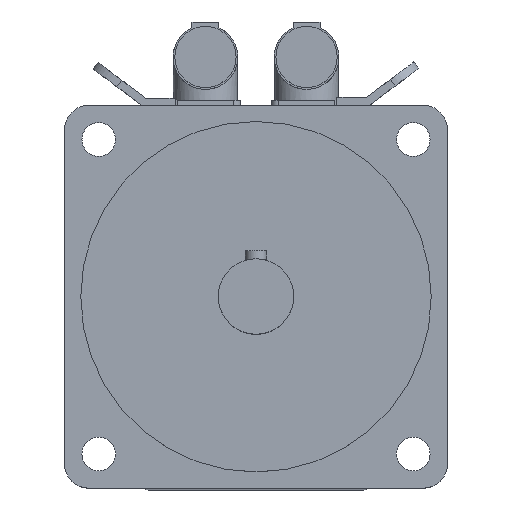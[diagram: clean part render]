
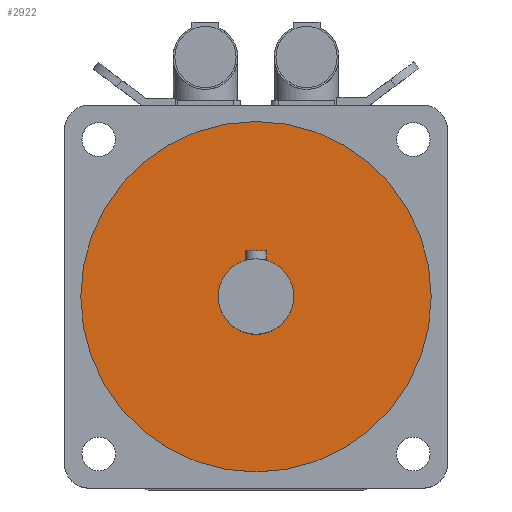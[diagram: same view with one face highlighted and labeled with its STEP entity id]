
A CAD part, top view. The second image highlights one B-rep face of the part: STEP entity #2922.
In plain terms, the highlighted planar face has unit normal (0, 0, 1).
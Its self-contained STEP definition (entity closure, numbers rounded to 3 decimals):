
#614=PLANE('',#3118);
#692=FACE_BOUND('',#926,.T.);
#742=FACE_OUTER_BOUND('',#925,.T.);
#925=EDGE_LOOP('',(#2098));
#926=EDGE_LOOP('',(#2099));
#1112=CIRCLE('',#3113,14.);
#1113=CIRCLE('',#3116,65.);
#1298=VERTEX_POINT('',#4521);
#1299=VERTEX_POINT('',#4525);
#1604=EDGE_CURVE('',#1298,#1298,#1112,.T.);
#1605=EDGE_CURVE('',#1299,#1299,#1113,.T.);
#2098=ORIENTED_EDGE('',*,*,#1605,.T.);
#2099=ORIENTED_EDGE('',*,*,#1604,.T.);
#2922=ADVANCED_FACE('',(#742,#692),#614,.T.);
#3113=AXIS2_PLACEMENT_3D('',#4522,#3545,#3546);
#3116=AXIS2_PLACEMENT_3D('',#4526,#3551,#3552);
#3118=AXIS2_PLACEMENT_3D('',#4529,#3555,#3556);
#3545=DIRECTION('center_axis',(0.,0.,-1.));
#3546=DIRECTION('ref_axis',(-1.,0.,0.));
#3551=DIRECTION('center_axis',(0.,0.,1.));
#3552=DIRECTION('ref_axis',(-1.,0.,0.));
#3555=DIRECTION('center_axis',(0.,0.,1.));
#3556=DIRECTION('ref_axis',(1.,0.,0.));
#4521=CARTESIAN_POINT('',(14.,0.,365.5));
#4522=CARTESIAN_POINT('Origin',(0.,0.,365.5));
#4525=CARTESIAN_POINT('',(65.,0.,365.5));
#4526=CARTESIAN_POINT('Origin',(0.,0.,365.5));
#4529=CARTESIAN_POINT('Origin',(0.,0.,365.5));
